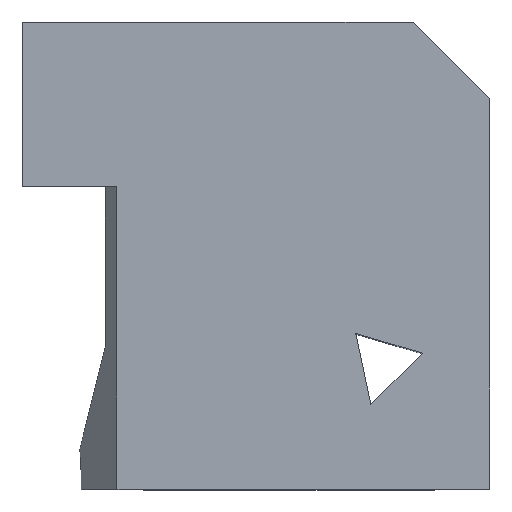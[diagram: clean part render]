
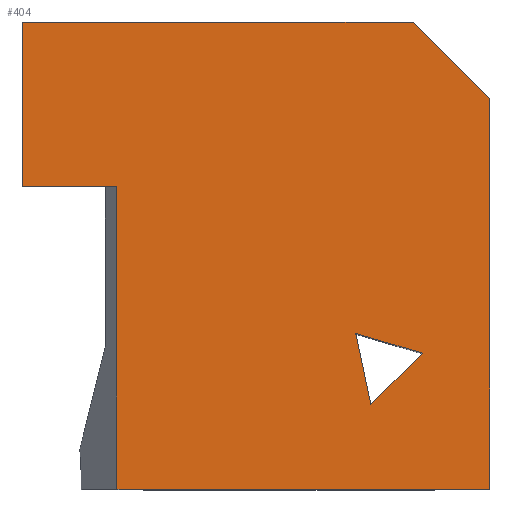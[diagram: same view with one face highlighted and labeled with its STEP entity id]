
A CAD part, top view. The second image highlights one B-rep face of the part: STEP entity #404.
In plain terms, the highlighted planar face has unit normal (0, 0, 1).
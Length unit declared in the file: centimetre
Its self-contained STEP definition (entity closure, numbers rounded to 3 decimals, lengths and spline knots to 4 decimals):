
#15 = EDGE_CURVE ( 'NONE', #685, #136, #148, .T. ) ;
#34 = VECTOR ( 'NONE', #611, 100. ) ;
#46 = CARTESIAN_POINT ( 'NONE',  ( 1000., 1000., 1000. ) ) ;
#48 = VERTEX_POINT ( 'NONE', #532 ) ;
#50 = LINE ( 'NONE', #46, #843 ) ;
#67 = EDGE_CURVE ( 'NONE', #839, #720, #733, .T. ) ;
#103 = VECTOR ( 'NONE', #303, 100. ) ;
#104 = EDGE_CURVE ( 'NONE', #421, #469, #50, .T. ) ;
#114 = EDGE_CURVE ( 'NONE', #48, #839, #348, .T. ) ;
#126 = ORIENTED_EDGE ( 'NONE', *, *, #104, .T. ) ;
#135 = DIRECTION ( 'NONE',  ( -0.707, 0.707, 0. ) ) ;
#136 = VERTEX_POINT ( 'NONE', #887 ) ;
#141 = ORIENTED_EDGE ( 'NONE', *, *, #860, .T. ) ;
#148 = LINE ( 'NONE', #463, #156 ) ;
#154 = VECTOR ( 'NONE', #135, 100. ) ;
#156 = VECTOR ( 'NONE', #600, 100. ) ;
#157 = CARTESIAN_POINT ( 'NONE',  ( 0., 0., 1000. ) ) ;
#170 = CARTESIAN_POINT ( 'NONE',  ( 713.5582, 333.6054, 1000. ) ) ;
#176 = CARTESIAN_POINT ( 'NONE',  ( 202.47, 647.7107, 1000. ) ) ;
#177 = EDGE_LOOP ( 'NONE', ( #810, #937, #126, #141, #902, #248, #938 ) ) ;
#190 = VERTEX_POINT ( 'NONE', #176 ) ;
#248 = ORIENTED_EDGE ( 'NONE', *, *, #67, .T. ) ;
#252 = CARTESIAN_POINT ( 'NONE',  ( 0., 1000., 1000. ) ) ;
#269 = DIRECTION ( 'NONE',  ( 1., 0., 0. ) ) ;
#270 = DIRECTION ( 'NONE',  ( 0., -1., 0. ) ) ;
#279 = VECTOR ( 'NONE', #270, 100. ) ;
#303 = DIRECTION ( 'NONE',  ( 0., -1., 0. ) ) ;
#319 = LINE ( 'NONE', #170, #402 ) ;
#337 = CARTESIAN_POINT ( 'NONE',  ( 745.8916, 181.623, 1000. ) ) ;
#342 = FACE_BOUND ( 'NONE', #681, .T. ) ;
#348 = LINE ( 'NONE', #869, #970 ) ;
#368 = ORIENTED_EDGE ( 'NONE', *, *, #380, .F. ) ;
#371 = LINE ( 'NONE', #379, #103 ) ;
#377 = LINE ( 'NONE', #157, #34 ) ;
#379 = CARTESIAN_POINT ( 'NONE',  ( 202.47, 647.7107, 1000. ) ) ;
#380 = EDGE_CURVE ( 'NONE', #801, #685, #862, .T. ) ;
#388 = ORIENTED_EDGE ( 'NONE', *, *, #15, .F. ) ;
#402 = VECTOR ( 'NONE', #841, 100. ) ;
#404 = ADVANCED_FACE ( 'NONE', ( #407, #342 ), #405, .T. ) ;
#405 = PLANE ( 'NONE',  #875 ) ;
#407 = FACE_OUTER_BOUND ( 'NONE', #177, .T. ) ;
#412 = CARTESIAN_POINT ( 'NONE',  ( 1000., 0., 1000. ) ) ;
#421 = VERTEX_POINT ( 'NONE', #412 ) ;
#423 = DIRECTION ( 'NONE',  ( 0., 1., 0. ) ) ;
#430 = DIRECTION ( 'NONE',  ( -1., 0., 0. ) ) ;
#460 = DIRECTION ( 'NONE',  ( -1., 0., 0. ) ) ;
#463 = CARTESIAN_POINT ( 'NONE',  ( 855.6149, 291.3463, 1000. ) ) ;
#469 = VERTEX_POINT ( 'NONE', #886 ) ;
#473 = CARTESIAN_POINT ( 'NONE',  ( 745.8916, 181.623, 1000. ) ) ;
#475 = CARTESIAN_POINT ( 'NONE',  ( 0., 647.7107, 1000. ) ) ;
#483 = CARTESIAN_POINT ( 'NONE',  ( 0., 0., 1000. ) ) ;
#528 = ORIENTED_EDGE ( 'NONE', *, *, #787, .F. ) ;
#532 = CARTESIAN_POINT ( 'NONE',  ( 836.3188, 1000., 1000. ) ) ;
#600 = DIRECTION ( 'NONE',  ( -0.958, 0.285, 0. ) ) ;
#602 = EDGE_CURVE ( 'NONE', #190, #625, #371, .T. ) ;
#611 = DIRECTION ( 'NONE',  ( 1., 0., 0. ) ) ;
#625 = VERTEX_POINT ( 'NONE', #975 ) ;
#654 = VECTOR ( 'NONE', #941, 100. ) ;
#681 = EDGE_LOOP ( 'NONE', ( #388, #368, #528 ) ) ;
#685 = VERTEX_POINT ( 'NONE', #757 ) ;
#693 = EDGE_CURVE ( 'NONE', #625, #421, #377, .T. ) ;
#708 = DIRECTION ( 'NONE',  ( 0., 0., 1. ) ) ;
#711 = EDGE_CURVE ( 'NONE', #190, #720, #917, .T. ) ;
#717 = VECTOR ( 'NONE', #460, 100. ) ;
#720 = VERTEX_POINT ( 'NONE', #475 ) ;
#733 = LINE ( 'NONE', #803, #279 ) ;
#757 = CARTESIAN_POINT ( 'NONE',  ( 855.6149, 291.3463, 1000. ) ) ;
#787 = EDGE_CURVE ( 'NONE', #136, #801, #319, .T. ) ;
#801 = VERTEX_POINT ( 'NONE', #473 ) ;
#803 = CARTESIAN_POINT ( 'NONE',  ( 0., 1000., 1000. ) ) ;
#810 = ORIENTED_EDGE ( 'NONE', *, *, #602, .T. ) ;
#828 = CARTESIAN_POINT ( 'NONE',  ( 0., 647.7107, 1000. ) ) ;
#839 = VERTEX_POINT ( 'NONE', #252 ) ;
#841 = DIRECTION ( 'NONE',  ( 0.208, -0.978, 0. ) ) ;
#843 = VECTOR ( 'NONE', #423, 100. ) ;
#860 = EDGE_CURVE ( 'NONE', #469, #48, #879, .T. ) ;
#862 = LINE ( 'NONE', #337, #654 ) ;
#869 = CARTESIAN_POINT ( 'NONE',  ( 0., 1000., 1000. ) ) ;
#875 = AXIS2_PLACEMENT_3D ( 'NONE', #483, #708, #269 ) ;
#879 = LINE ( 'NONE', #962, #154 ) ;
#886 = CARTESIAN_POINT ( 'NONE',  ( 1000., 836.3188, 1000. ) ) ;
#887 = CARTESIAN_POINT ( 'NONE',  ( 713.5582, 333.6054, 1000. ) ) ;
#902 = ORIENTED_EDGE ( 'NONE', *, *, #114, .T. ) ;
#917 = LINE ( 'NONE', #828, #717 ) ;
#937 = ORIENTED_EDGE ( 'NONE', *, *, #693, .T. ) ;
#938 = ORIENTED_EDGE ( 'NONE', *, *, #711, .F. ) ;
#941 = DIRECTION ( 'NONE',  ( 0.707, 0.707, 0. ) ) ;
#962 = CARTESIAN_POINT ( 'NONE',  ( 918.1594, 918.1594, 1000. ) ) ;
#970 = VECTOR ( 'NONE', #430, 100. ) ;
#975 = CARTESIAN_POINT ( 'NONE',  ( 202.47, 0., 1000. ) ) ;
